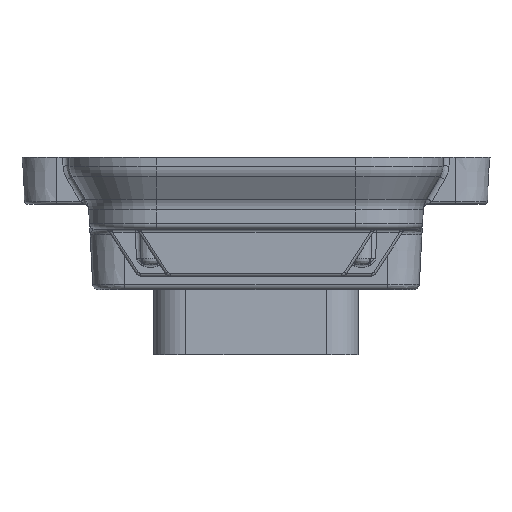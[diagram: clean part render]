
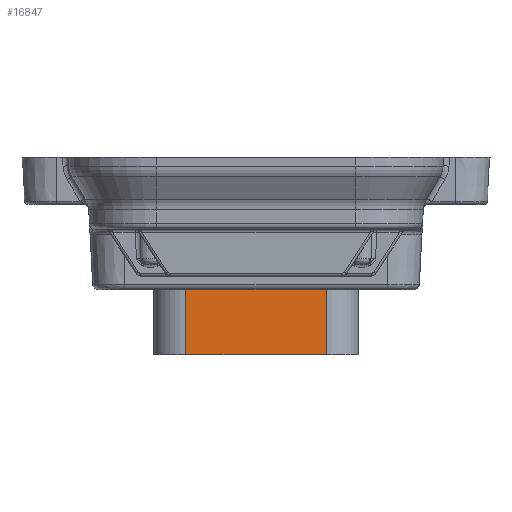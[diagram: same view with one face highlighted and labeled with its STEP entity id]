
A CAD part, front view. The second image highlights one B-rep face of the part: STEP entity #16847.
In plain terms, the highlighted planar face has unit normal (0, -1, 0).
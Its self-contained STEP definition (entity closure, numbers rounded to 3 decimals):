
#2296=FACE_OUTER_BOUND('',#3386,.T.);
#3386=EDGE_LOOP('',(#14939,#14940,#14941,#14942));
#4302=LINE('',#35794,#5399);
#4309=LINE('',#35815,#5406);
#4310=LINE('',#35818,#5407);
#4311=LINE('',#35819,#5408);
#5399=VECTOR('',#22949,18.);
#5406=VECTOR('',#22970,13.1);
#5407=VECTOR('',#22973,18.);
#5408=VECTOR('',#22974,13.1);
#7878=VERTEX_POINT('',#35791);
#7879=VERTEX_POINT('',#35793);
#7886=VERTEX_POINT('',#35813);
#7887=VERTEX_POINT('',#35817);
#10267=EDGE_CURVE('',#7879,#7878,#4302,.T.);
#10278=EDGE_CURVE('',#7886,#7878,#4309,.T.);
#10279=EDGE_CURVE('',#7887,#7886,#4310,.T.);
#10280=EDGE_CURVE('',#7887,#7879,#4311,.T.);
#14939=ORIENTED_EDGE('',*,*,#10267,.T.);
#14940=ORIENTED_EDGE('',*,*,#10278,.F.);
#14941=ORIENTED_EDGE('',*,*,#10279,.F.);
#14942=ORIENTED_EDGE('',*,*,#10280,.T.);
#15811=PLANE('',#18675);
#16847=ADVANCED_FACE('',(#2296),#15811,.T.);
#18675=AXIS2_PLACEMENT_3D('',#35816,#22971,#22972);
#22949=DIRECTION('',(1.,0.,0.));
#22970=DIRECTION('',(0.,0.,-1.));
#22971=DIRECTION('center_axis',(0.,-1.,0.));
#22972=DIRECTION('ref_axis',(0.,0.,-1.));
#22973=DIRECTION('',(1.,0.,0.));
#22974=DIRECTION('',(0.,0.,-1.));
#35791=CARTESIAN_POINT('',(12.,-11.95,6.5));
#35793=CARTESIAN_POINT('',(-12.,-11.95,6.5));
#35794=CARTESIAN_POINT('',(-12.,-11.95,6.5));
#35813=CARTESIAN_POINT('',(12.,-11.95,19.6));
#35815=CARTESIAN_POINT('',(12.,-11.95,19.6));
#35816=CARTESIAN_POINT('Origin',(-9.,-11.95,19.6));
#35817=CARTESIAN_POINT('',(-12.,-11.95,19.6));
#35818=CARTESIAN_POINT('',(-6.,-11.95,19.6));
#35819=CARTESIAN_POINT('',(-12.,-11.95,19.6));
